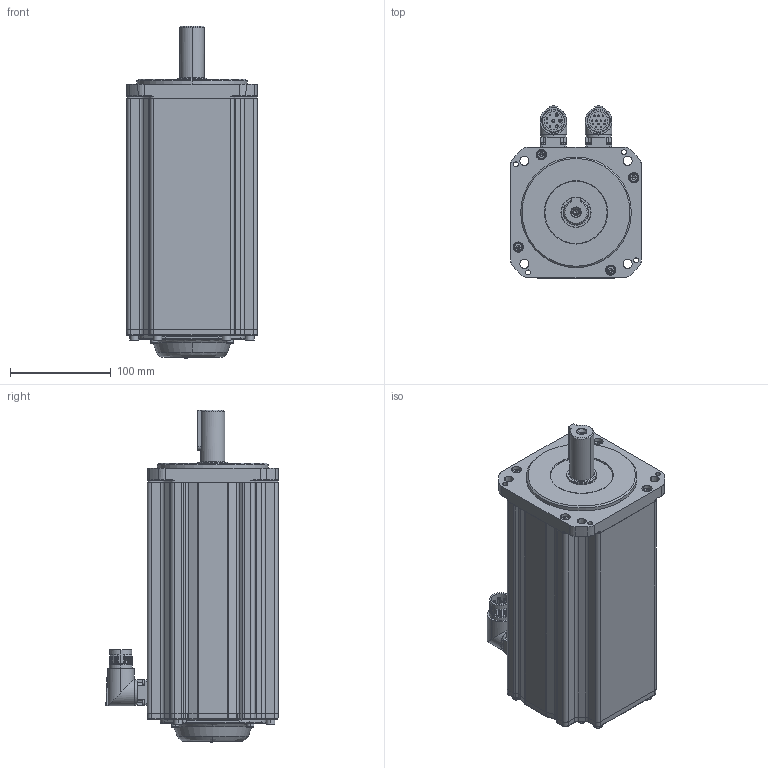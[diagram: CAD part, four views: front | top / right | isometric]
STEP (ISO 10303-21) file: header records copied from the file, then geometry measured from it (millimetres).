
FILE_DESCRIPTION (( 'STEP AP203' ), '1' );
FILE_NAME ('MC20-130-3L30-N502-1¡õPK-NNNN.STEP', '2025-10-08T02:01:53', ( '' ), ( '' ), 'SwSTEP 2.0', 'SolidWorks 2014', '' );
FILE_SCHEMA (( 'CONFIG_CONTROL_DESIGN' ));
Products named in the file (1): MC20-130-3L30-N502-1¡õPK-NNNN
Bounding box: 130 x 171.35 x 330.2 mm (x, y, z)
Volume: 3981822.8 mm3; surface area: 327279.1 mm2
Topology: 28 solids, 28 shells, 2024 faces, 4803 edges, 2863 vertices
Faces by surface type: plane 735, cylinder 568, cone 357, bspline 204, torus 148, sphere 12
Entity records: 62203 total; most frequent: CARTESIAN_POINT 16842, DIRECTION 9530, ORIENTED_EDGE 9382, EDGE_CURVE 4691, AXIS2_PLACEMENT_3D 3694, VERTEX_POINT 2863, EDGE_LOOP 2270, VECTOR 2142
